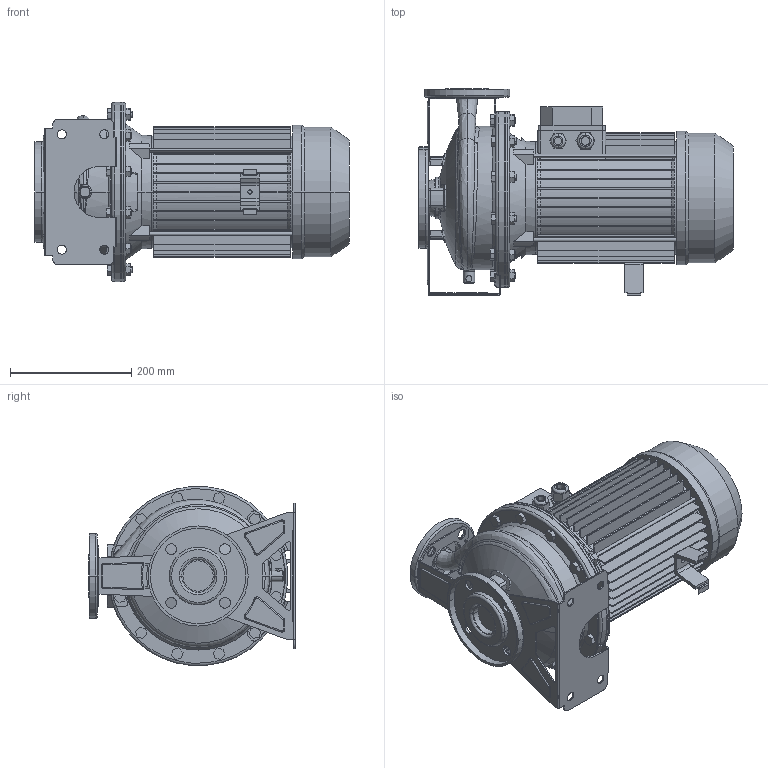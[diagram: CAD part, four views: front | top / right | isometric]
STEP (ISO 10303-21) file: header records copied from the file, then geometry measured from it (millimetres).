
FILE_DESCRIPTION((''),'2;1');
FILE_NAME('3M_32-200_5_5_IE2_ASM','2011-04-22T',('Utente'),('"Ebara Pumps Europe +39.444.706811"'),'PRO/ENGINEER BY PARAMETRIC TECHNOLOGY CORPORATION, 2009360','PRO/ENGINEER BY PARAMETRIC TECHNOLOGY CORPORATION, 2009360','');
FILE_SCHEMA(('AUTOMOTIVE_DESIGN { 1 0 10303 214 1 1 1 1 }'));
Length unit declared in the file: millimetre
Products named in the file (11): CORPO_32-200; ASP_32-200; FLANGIA_DIN_50; MAND_32-200; FLANGIA_DIN_32; BASE_3M_32-200; CORPO_SALDATO_32-200_ASM; SUPPORTO_3M_230_112; MEC_112X160_180_IE2; SOSTEGNO_72008; 3M_32-200_5_5_IE2_ASM
Assembly tree (10 placements, depth 3):
  3M_32-200_5_5_IE2_ASM
    CORPO_SALDATO_32-200_ASM
      CORPO_32-200
      ASP_32-200
      FLANGIA_DIN_50
      MAND_32-200
      FLANGIA_DIN_32
      BASE_3M_32-200
    SUPPORTO_3M_230_112
    MEC_112X160_180_IE2
    SOSTEGNO_72008
Bounding box: 519 x 340 x 295.13 mm (x, y, z)
Volume: 11502678.8 mm3; surface area: 1440233.3 mm2
Topology: 12 solids, 12 shells, 1108 faces, 2806 edges, 1793 vertices
Faces by surface type: plane 601, cylinder 310, cone 96, torus 62, bspline 33, sphere 6
Entity records: 42658 total; most frequent: CARTESIAN_POINT 9232, DIRECTION 5736, ORIENTED_EDGE 5612, EDGE_CURVE 2806, AXIS2_PLACEMENT_3D 2078, VERTEX_POINT 1793, VECTOR 1580, LINE 1580
